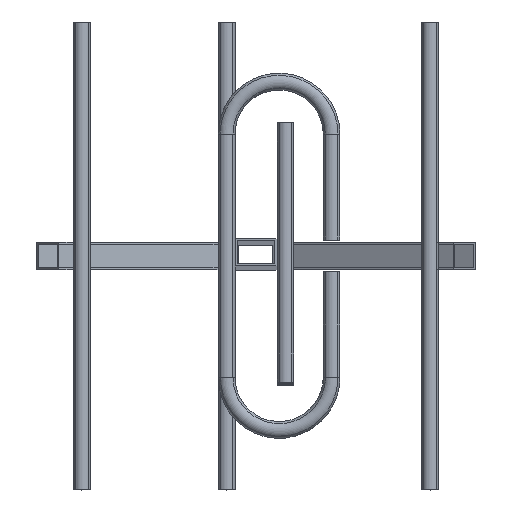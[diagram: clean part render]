
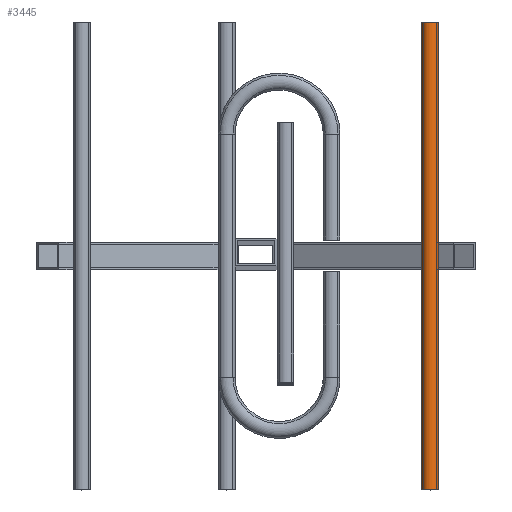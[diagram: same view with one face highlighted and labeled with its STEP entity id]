
A CAD part, top view. The second image highlights one B-rep face of the part: STEP entity #3445.
In plain terms, the highlighted cylindrical face has radius 4 mm (diameter 8 mm), a full revolution.
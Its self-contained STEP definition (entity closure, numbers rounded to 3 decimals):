
#528=CARTESIAN_POINT('',(98.739,-6.5,-65.602));
#529=VERTEX_POINT('',#528);
#536=CARTESIAN_POINT('',(98.739,6.5,-65.602));
#537=VERTEX_POINT('',#536);
#538=CARTESIAN_POINT('',(98.739,6.5,-65.602));
#539=DIRECTION('',(0.0,-1.0,0.0));
#540=VECTOR('',#539,13.);
#541=LINE('',#538,#540);
#542=EDGE_CURVE('',#537,#529,#541,.T.);
#716=CARTESIAN_POINT('',(99.384,6.5,-65.212));
#717=VERTEX_POINT('',#716);
#718=CARTESIAN_POINT('',(97.,6.5,-62.0));
#719=DIRECTION('',(0.0,1.0,0.0));
#720=DIRECTION('',(1.0,0.0,0.0));
#721=AXIS2_PLACEMENT_3D('',#718,#719,#720);
#722=CIRCLE('',#721,4.0);
#723=EDGE_CURVE('',#717,#537,#722,.T.);
#1070=CARTESIAN_POINT('',(99.384,-6.5,-65.212));
#1071=VERTEX_POINT('',#1070);
#1072=CARTESIAN_POINT('',(99.384,-6.5,-65.212));
#1073=DIRECTION('',(0.0,1.0,0.0));
#1074=VECTOR('',#1073,13.);
#1075=LINE('',#1072,#1074);
#1076=EDGE_CURVE('',#1071,#717,#1075,.T.);
#2952=CARTESIAN_POINT('',(97.,-6.5,-62.0));
#2953=DIRECTION('',(0.0,-1.0,0.0));
#2954=DIRECTION('',(1.0,0.0,0.0));
#2955=AXIS2_PLACEMENT_3D('',#2952,#2953,#2954);
#2956=CIRCLE('',#2955,4.0);
#2957=EDGE_CURVE('',#529,#1071,#2956,.T.);
#3405=CARTESIAN_POINT('',(93.0,-111.5,-62.0));
#3406=VERTEX_POINT('',#3405);
#3407=CARTESIAN_POINT('',(97.,-111.5,-62.0));
#3408=DIRECTION('',(0.0,1.0,0.0));
#3409=DIRECTION('',(1.0,0.0,0.0));
#3410=AXIS2_PLACEMENT_3D('',#3407,#3408,#3409);
#3411=CIRCLE('',#3410,4.0);
#3412=EDGE_CURVE('',#3406,#3406,#3411,.T.);
#3420=CARTESIAN_POINT('',(97.,0.0,-62.0));
#3421=DIRECTION('',(0.0,1.0,0.0));
#3422=DIRECTION('',(1.0,0.0,0.0));
#3423=AXIS2_PLACEMENT_3D('',#3420,#3421,#3422);
#3424=CYLINDRICAL_SURFACE('',#3423,4.0);
#3425=ORIENTED_EDGE('',*,*,#3412,.T.);
#3426=EDGE_LOOP('',(#3425));
#3427=FACE_OUTER_BOUND('',#3426,.T.);
#3428=ORIENTED_EDGE('',*,*,#2957,.T.);
#3429=ORIENTED_EDGE('',*,*,#1076,.T.);
#3430=ORIENTED_EDGE('',*,*,#723,.T.);
#3431=ORIENTED_EDGE('',*,*,#542,.T.);
#3432=EDGE_LOOP('',(#3428,#3429,#3430,#3431));
#3433=FACE_BOUND('',#3432,.T.);
#3434=CARTESIAN_POINT('',(93.0,111.5,-62.0));
#3435=VERTEX_POINT('',#3434);
#3436=CARTESIAN_POINT('',(97.,111.5,-62.0));
#3437=DIRECTION('',(0.0,-1.0,0.0));
#3438=DIRECTION('',(1.0,0.0,0.0));
#3439=AXIS2_PLACEMENT_3D('',#3436,#3437,#3438);
#3440=CIRCLE('',#3439,4.0);
#3441=EDGE_CURVE('',#3435,#3435,#3440,.T.);
#3442=ORIENTED_EDGE('',*,*,#3441,.T.);
#3443=EDGE_LOOP('',(#3442));
#3444=FACE_BOUND('',#3443,.T.);
#3445=ADVANCED_FACE('',(#3427,#3433,#3444),#3424,.T.);
